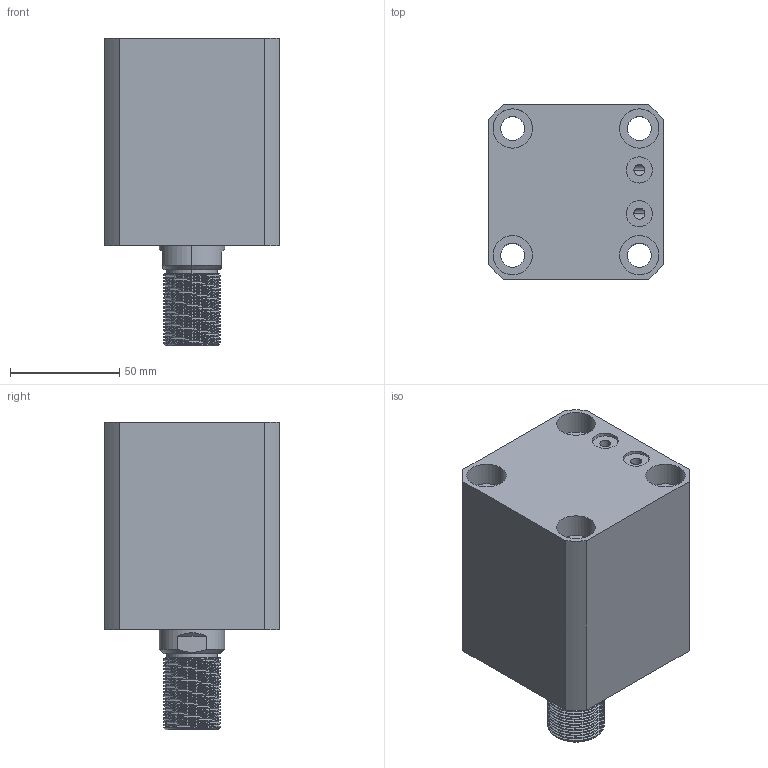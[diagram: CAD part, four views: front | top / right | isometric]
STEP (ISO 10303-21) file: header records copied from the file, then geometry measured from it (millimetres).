
FILE_DESCRIPTION (( 'STEP AP203' ), '1' );
FILE_NAME ('CHTB-SDMB50-35W.STEP', '2018-05-19T05:32:39', ( '' ), ( '' ), 'SwSTEP 2.0', 'SolidWorks 2015', '' );
FILE_SCHEMA (( 'CONFIG_CONTROL_DESIGN' ));
Length unit declared in the file: millimetre
Products named in the file (5): 活塞杆SDMB50-35W; M6; 掛极SDMB50-35W; CHTB-SDMB50-35W; CHTM-SDMA50QG
Assembly tree (5 placements, depth 2):
  CHTB-SDMB50-35W
    掛极SDMB50-35W
    活塞杆SDMB50-35W
    CHTM-SDMA50QG
    M6  x2
Bounding box: 80 x 80 x 141 mm (x, y, z)
Volume: 530268.9 mm3; surface area: 106162.1 mm2
Topology: 5 solids, 5 shells, 305 faces, 821 edges, 547 vertices
Faces by surface type: cylinder 175, plane 57, cone 29, bspline 28, torus 16
Entity records: 17763 total; most frequent: CARTESIAN_POINT 11022, ORIENTED_EDGE 1448, DIRECTION 1131, EDGE_CURVE 724, VERTEX_POINT 486, AXIS2_PLACEMENT_3D 455, EDGE_LOOP 312, ADVANCED_FACE 270
